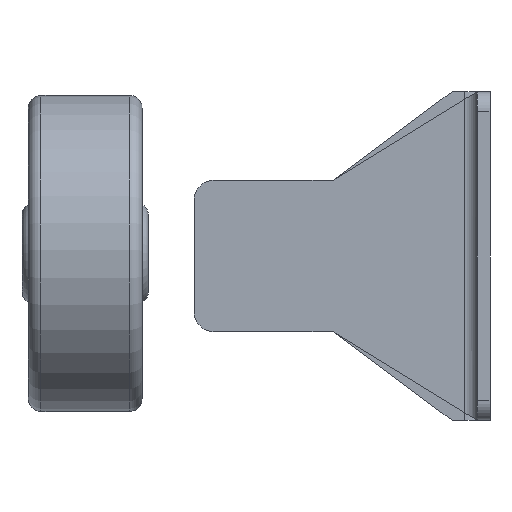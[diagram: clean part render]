
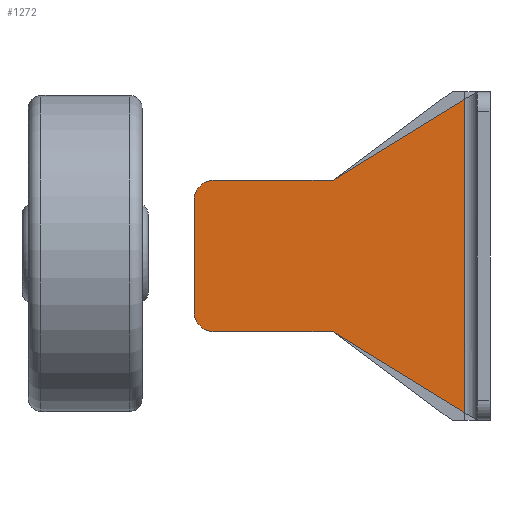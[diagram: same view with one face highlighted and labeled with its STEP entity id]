
A CAD part, left-side view. The second image highlights one B-rep face of the part: STEP entity #1272.
In plain terms, the highlighted planar face has unit normal (-1, 0, 0).
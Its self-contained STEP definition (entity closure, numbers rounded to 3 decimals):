
#1163=CARTESIAN_POINT('',(-550.,112.,21.236));
#1164=VERTEX_POINT('',#1163);
#1171=CARTESIAN_POINT('',(-550.,104.,29.236));
#1172=VERTEX_POINT('',#1171);
#1173=CARTESIAN_POINT('',(-550.,104.,21.236));
#1174=DIRECTION('',(1.0,0.,0.));
#1175=DIRECTION('',(0.,0.707,0.707));
#1176=AXIS2_PLACEMENT_3D('',#1173,#1174,#1175);
#1177=CIRCLE('',#1176,8.);
#1178=EDGE_CURVE('',#1164,#1172,#1177,.T.);
#1196=CARTESIAN_POINT('',(-550.,57.,29.236));
#1197=VERTEX_POINT('',#1196);
#1198=CARTESIAN_POINT('',(-550.,57.,29.236));
#1199=DIRECTION('',(0.0,1.0,0.0));
#1200=VECTOR('',#1199,47.0);
#1201=LINE('',#1198,#1200);
#1202=EDGE_CURVE('',#1197,#1172,#1201,.T.);
#1216=CARTESIAN_POINT('',(-550.,112.,64.236));
#1217=DIRECTION('',(-1.0,0.0,0.0));
#1218=DIRECTION('',(0.0,-1.0,0.0));
#1219=AXIS2_PLACEMENT_3D('',#1216,#1217,#1218);
#1220=PLANE('',#1219);
#1221=ORIENTED_EDGE('',*,*,#1178,.F.);
#1222=CARTESIAN_POINT('',(-550.,112.,-22.764));
#1223=VERTEX_POINT('',#1222);
#1224=CARTESIAN_POINT('',(-550.,112.,21.236));
#1225=DIRECTION('',(0.0,0.0,-1.0));
#1226=VECTOR('',#1225,44.0);
#1227=LINE('',#1224,#1226);
#1228=EDGE_CURVE('',#1164,#1223,#1227,.T.);
#1229=ORIENTED_EDGE('',*,*,#1228,.T.);
#1230=CARTESIAN_POINT('',(-550.,104.,-30.764));
#1231=VERTEX_POINT('',#1230);
#1232=CARTESIAN_POINT('',(-550.,104.,-22.764));
#1233=DIRECTION('',(1.0,0.,0.));
#1234=DIRECTION('',(0.,0.707,-0.707));
#1235=AXIS2_PLACEMENT_3D('',#1232,#1233,#1234);
#1236=CIRCLE('',#1235,8.);
#1237=EDGE_CURVE('',#1231,#1223,#1236,.T.);
#1238=ORIENTED_EDGE('',*,*,#1237,.F.);
#1239=CARTESIAN_POINT('',(-550.,57.,-30.764));
#1240=VERTEX_POINT('',#1239);
#1241=CARTESIAN_POINT('',(-550.,104.,-30.764));
#1242=DIRECTION('',(0.0,-1.0,0.0));
#1243=VECTOR('',#1242,47.0);
#1244=LINE('',#1241,#1243);
#1245=EDGE_CURVE('',#1231,#1240,#1244,.T.);
#1246=ORIENTED_EDGE('',*,*,#1245,.T.);
#1247=CARTESIAN_POINT('',(-550.,5.,-62.694));
#1248=VERTEX_POINT('',#1247);
#1249=CARTESIAN_POINT('',(-550.,57.,-30.764));
#1250=DIRECTION('',(0.0,-0.852,-0.523));
#1251=VECTOR('',#1250,61.021);
#1252=LINE('',#1249,#1251);
#1253=EDGE_CURVE('',#1240,#1248,#1252,.T.);
#1254=ORIENTED_EDGE('',*,*,#1253,.T.);
#1255=CARTESIAN_POINT('',(-550.,5.,61.166));
#1256=VERTEX_POINT('',#1255);
#1257=CARTESIAN_POINT('',(-550.,5.,61.166));
#1258=DIRECTION('',(0.0,0.0,-1.0));
#1259=VECTOR('',#1258,123.86);
#1260=LINE('',#1257,#1259);
#1261=EDGE_CURVE('',#1256,#1248,#1260,.T.);
#1262=ORIENTED_EDGE('',*,*,#1261,.F.);
#1263=CARTESIAN_POINT('',(-550.,5.,61.166));
#1264=DIRECTION('',(0.0,0.852,-0.523));
#1265=VECTOR('',#1264,61.021);
#1266=LINE('',#1263,#1265);
#1267=EDGE_CURVE('',#1256,#1197,#1266,.T.);
#1268=ORIENTED_EDGE('',*,*,#1267,.T.);
#1269=ORIENTED_EDGE('',*,*,#1202,.T.);
#1270=EDGE_LOOP('',(#1221,#1229,#1238,#1246,#1254,#1262,#1268,#1269));
#1271=FACE_OUTER_BOUND('',#1270,.T.);
#1272=ADVANCED_FACE('',(#1271),#1220,.T.);
